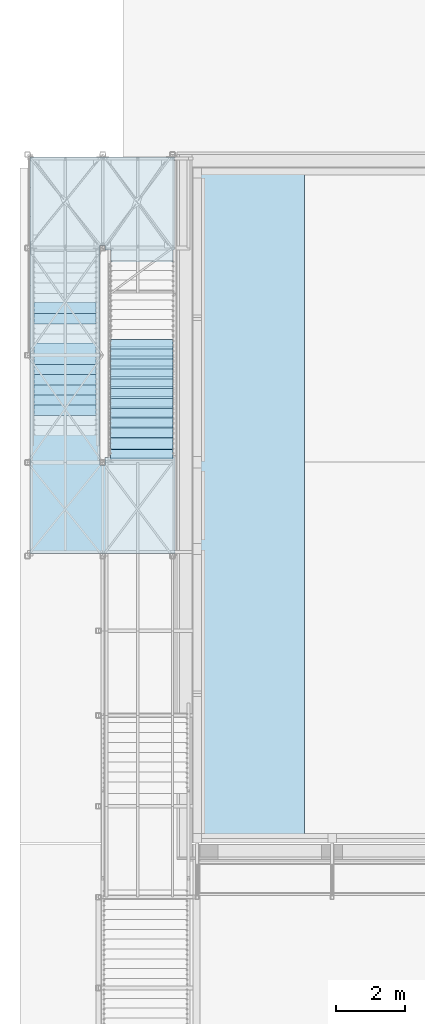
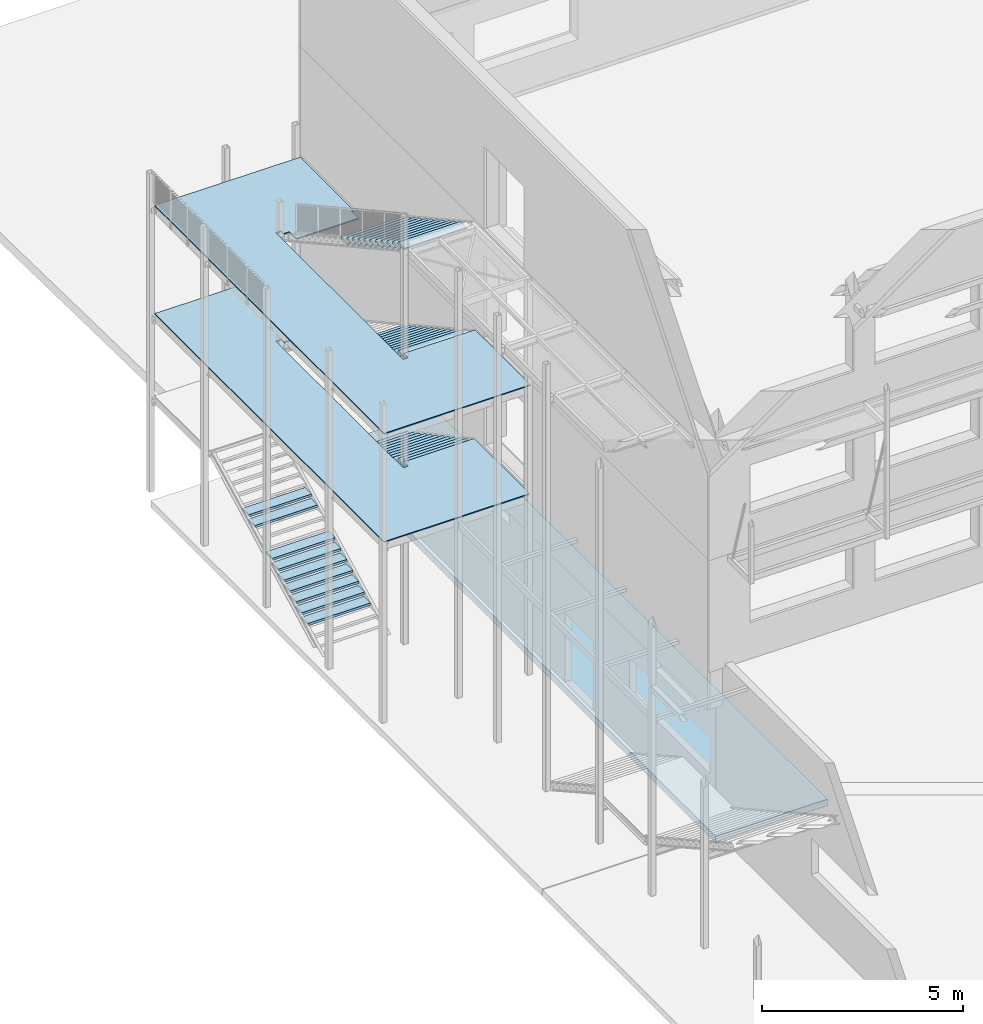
# One storey, part 58 of 78: 44 plates, 1 slab, 45 elements without a shape of their own.
"""IFC2X3 building model written with IfcOpenShell, lengths in millimetres."""

from ifc_helpers import new_model, si_unit, frame, origin_with_axes, place, context, subcontext, project, spatial, polyline, outline, extrude, material, type_object, element, aggregate, save


model = new_model("IFC2X3")

# Units and contexts
model_context = context("Model", 3, precision=1e-05, world=origin_with_axes())
body_context = subcontext(model_context, "Body", "Model", "MODEL_VIEW")
ifc_project = project(units=[si_unit("LENGTHUNIT", "METRE", prefix="MILLI"), si_unit("AREAUNIT", "SQUARE_METRE"), si_unit("VOLUMEUNIT", "CUBIC_METRE"), si_unit("MASSUNIT", "GRAM", prefix="KILO"), si_unit("TIMEUNIT", "SECOND"), si_unit("PLANEANGLEUNIT", "RADIAN"), si_unit("SOLIDANGLEUNIT", "STERADIAN"), si_unit("THERMODYNAMICTEMPERATUREUNIT", "DEGREE_CELSIUS"), si_unit("LUMINOUSINTENSITYUNIT", "LUMEN")], contexts=[model_context])

# Site, building, storey
site_placement = place(None, origin_with_axes())
site = spatial("IfcSite", under=ifc_project, at=site_placement, Name="Site", CompositionType="ELEMENT")
building_placement = place(site_placement, origin_with_axes())
building = spatial("IfcBuilding", under=site, at=building_placement, Name="Undefined", CompositionType="ELEMENT")
storey_placement = place(building_placement, origin_with_axes())
storey = spatial("IfcBuildingStorey", under=building, at=storey_placement, Name="Undefined", CompositionType="ELEMENT", Elevation=0.0)

# Assembly, plate
assembly_1_placement = place(storey_placement, origin_with_axes())
assembly_1 = element("IfcElementAssembly", 1, at=assembly_1_placement, inside=storey, AssemblyPlace="NOTDEFINED", PredefinedType="RIGID_FRAME")
ifc_material_1 = material(Name="STEEL/S235JR")
plate_type_1 = type_object("IfcPlateType", Name="PL30*4190", PredefinedType="NOTDEFINED")
plate_1_placement = place(assembly_1_placement, frame((-35311.3999999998, 12733.0, 153385.04), z_axis=(0.0, 0.0, 1.0), x_axis=(0.0, -1.0, 0.0)))
plate_1 = element("IfcPlate", 2, at=plate_1_placement, type_object=plate_type_1, material=ifc_material_1, Name="CAILLEBOTIS", ObjectType="PL30*4190", context=body_context, shape_type="SweptSolid", body=[
    extrude(outline(polyline([(0.0, 0.0), (11450.0, 5.0931703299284e-11), (11450.0, 4189.96701851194), (8685.0059422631, 4189.96701851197), (8685.0035582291, 2169.96571950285), (8900.00000000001, 2169.96999999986), (8900.0, 2019.97420066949), (2550.0, 2019.97420066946), (2550.0, 2169.96999999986), (2685.00000000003, 2169.96999999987), (2685.00000000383, 2333.53825699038), (3035.00000011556, 2333.53825699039), (3034.99999999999, 4123.53825699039), (2684.99999999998, 4123.53825699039), (2684.99999999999, 4164.91625219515), (3.63797880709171e-12, 4164.97000010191), (0.0, 0.0)])), frame((0.0, 0.0, -15.0), z_axis=(0.0, 0.0, 1.0), x_axis=(1.0, 0.0, 0.0)), (0.0, 0.0, 1.0), 30.0),
])
aggregate(assembly_1, [plate_1])

assembly_2_placement = place(storey_placement, origin_with_axes())
assembly_2 = element("IfcElementAssembly", 3, at=assembly_2_placement, inside=storey, Name="MARCHE", AssemblyPlace="NOTDEFINED", PredefinedType="RIGID_FRAME")
plate_type_2 = type_object("IfcPlateType", Name="PL1800*70", PredefinedType="NOTDEFINED")
plate_2_placement = place(assembly_2_placement, frame((-32082.8599999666, 4287.99999995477, 156385.040000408), z_axis=(-1.0, 0.0, 0.0), x_axis=(0.0, 1.0, 0.0)))
plate_2 = element("IfcPlate", 4, at=plate_2_placement, type_object=plate_type_2, material=ifc_material_1, Name="MARCHE", ObjectType="PL1800*70", context=body_context, shape_type="SweptSolid", body=[
    extrude(outline(polyline([(0.0, 0.0), (330.0, 0.0), (330.0, 70.0), (40.0, 70.0), (0.0, 40.0), (0.0, 0.0)])), frame((0.0, 0.0, -900.0), z_axis=(0.0, 0.0, 1.0), x_axis=(1.0, 0.0, 0.0)), (0.0, 0.0, 1.0), 1800.0),
])
aggregate(assembly_2, [plate_2])

assembly_3_placement = place(storey_placement, origin_with_axes())
assembly_3 = element("IfcElementAssembly", 5, at=assembly_3_placement, inside=storey, Name="MARCHE", AssemblyPlace="NOTDEFINED", PredefinedType="RIGID_FRAME")
plate_3_placement = place(assembly_3_placement, frame((-32082.8599999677, 4572.99999995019, 156227.5400004), z_axis=(-1.0, 0.0, 0.0), x_axis=(0.0, 1.0, 0.0)))
plate_3 = element("IfcPlate", 6, at=plate_3_placement, type_object=plate_type_2, material=ifc_material_1, Name="MARCHE", ObjectType="PL1800*70", context=body_context, shape_type="SweptSolid", body=[
    extrude(outline(polyline([(0.0, 0.0), (330.0, 0.0), (330.0, 70.0), (40.0, 70.0), (0.0, 40.0), (0.0, 0.0)])), frame((0.0, 0.0, -900.0), z_axis=(0.0, 0.0, 1.0), x_axis=(1.0, 0.0, 0.0)), (0.0, 0.0, 1.0), 1800.0),
])
aggregate(assembly_3, [plate_3])

assembly_4_placement = place(storey_placement, origin_with_axes())
assembly_4 = element("IfcElementAssembly", 7, at=assembly_4_placement, inside=storey, Name="MARCHE", AssemblyPlace="NOTDEFINED", PredefinedType="RIGID_FRAME")
plate_4_placement = place(assembly_4_placement, frame((-32082.8599999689, 4857.9999999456, 156070.040000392), z_axis=(-1.0, 0.0, 0.0), x_axis=(0.0, 1.0, 0.0)))
plate_4 = element("IfcPlate", 8, at=plate_4_placement, type_object=plate_type_2, material=ifc_material_1, Name="MARCHE", ObjectType="PL1800*70", context=body_context, shape_type="SweptSolid", body=[
    extrude(outline(polyline([(0.0, 0.0), (330.0, 0.0), (330.0, 70.0), (40.0, 70.0), (0.0, 40.0), (0.0, 0.0)])), frame((0.0, 0.0, -900.0), z_axis=(0.0, 0.0, 1.0), x_axis=(1.0, 0.0, 0.0)), (0.0, 0.0, 1.0), 1800.0),
])
aggregate(assembly_4, [plate_4])

assembly_5_placement = place(storey_placement, origin_with_axes())
assembly_5 = element("IfcElementAssembly", 9, at=assembly_5_placement, inside=storey, Name="MARCHE", AssemblyPlace="NOTDEFINED", PredefinedType="RIGID_FRAME")
plate_5_placement = place(assembly_5_placement, frame((-32082.85999997, 5142.99999994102, 155912.540000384), z_axis=(-1.0, 0.0, 0.0), x_axis=(0.0, 1.0, 0.0)))
plate_5 = element("IfcPlate", 10, at=plate_5_placement, type_object=plate_type_2, material=ifc_material_1, Name="MARCHE", ObjectType="PL1800*70", context=body_context, shape_type="SweptSolid", body=[
    extrude(outline(polyline([(0.0, 0.0), (330.0, 0.0), (330.0, 70.0), (40.0, 70.0), (0.0, 40.0), (0.0, 0.0)])), frame((0.0, 0.0, -900.0), z_axis=(0.0, 0.0, 1.0), x_axis=(1.0, 0.0, 0.0)), (0.0, 0.0, 1.0), 1800.0),
])
aggregate(assembly_5, [plate_5])

assembly_6_placement = place(storey_placement, origin_with_axes())
assembly_6 = element("IfcElementAssembly", 11, at=assembly_6_placement, inside=storey, Name="MARCHE", AssemblyPlace="NOTDEFINED", PredefinedType="RIGID_FRAME")
plate_6_placement = place(assembly_6_placement, frame((-32082.8599999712, 5427.99999993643, 155755.040000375), z_axis=(-1.0, 0.0, 0.0), x_axis=(0.0, 1.0, 0.0)))
plate_6 = element("IfcPlate", 12, at=plate_6_placement, type_object=plate_type_2, material=ifc_material_1, Name="MARCHE", ObjectType="PL1800*70", context=body_context, shape_type="SweptSolid", body=[
    extrude(outline(polyline([(0.0, 0.0), (330.0, 0.0), (330.0, 70.0), (40.0, 70.0), (0.0, 40.0), (0.0, 0.0)])), frame((0.0, 0.0, -900.0), z_axis=(0.0, 0.0, 1.0), x_axis=(1.0, 0.0, 0.0)), (0.0, 0.0, 1.0), 1800.0),
])
aggregate(assembly_6, [plate_6])

assembly_7_placement = place(storey_placement, origin_with_axes())
assembly_7 = element("IfcElementAssembly", 13, at=assembly_7_placement, inside=storey, Name="MARCHE", AssemblyPlace="NOTDEFINED", PredefinedType="RIGID_FRAME")
plate_7_placement = place(assembly_7_placement, frame((-32082.8599999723, 5712.99999993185, 155597.540000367), z_axis=(-1.0, 0.0, 0.0), x_axis=(0.0, 1.0, 0.0)))
plate_7 = element("IfcPlate", 14, at=plate_7_placement, type_object=plate_type_2, material=ifc_material_1, Name="MARCHE", ObjectType="PL1800*70", context=body_context, shape_type="SweptSolid", body=[
    extrude(outline(polyline([(0.0, 0.0), (330.0, 0.0), (330.0, 70.0), (40.0, 70.0), (0.0, 40.0), (0.0, 0.0)])), frame((0.0, 0.0, -900.0), z_axis=(0.0, 0.0, 1.0), x_axis=(1.0, 0.0, 0.0)), (0.0, 0.0, 1.0), 1800.0),
])
aggregate(assembly_7, [plate_7])

assembly_8_placement = place(storey_placement, origin_with_axes())
assembly_8 = element("IfcElementAssembly", 15, at=assembly_8_placement, inside=storey, Name="MARCHE", AssemblyPlace="NOTDEFINED", PredefinedType="RIGID_FRAME")
plate_8_placement = place(assembly_8_placement, frame((-32082.8599999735, 5997.99999992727, 155440.040000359), z_axis=(-1.0, 0.0, 0.0), x_axis=(0.0, 1.0, 0.0)))
plate_8 = element("IfcPlate", 16, at=plate_8_placement, type_object=plate_type_2, material=ifc_material_1, Name="MARCHE", ObjectType="PL1800*70", context=body_context, shape_type="SweptSolid", body=[
    extrude(outline(polyline([(0.0, 0.0), (330.0, 0.0), (330.0, 70.0), (40.0, 70.0), (0.0, 40.0), (0.0, 0.0)])), frame((0.0, 0.0, -900.0), z_axis=(0.0, 0.0, 1.0), x_axis=(1.0, 0.0, 0.0)), (0.0, 0.0, 1.0), 1800.0),
])
aggregate(assembly_8, [plate_8])

assembly_9_placement = place(storey_placement, origin_with_axes())
assembly_9 = element("IfcElementAssembly", 17, at=assembly_9_placement, inside=storey, Name="MARCHE", AssemblyPlace="NOTDEFINED", PredefinedType="RIGID_FRAME")
plate_9_placement = place(assembly_9_placement, frame((-32082.8599999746, 6282.99999992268, 155282.54000035), z_axis=(-1.0, 0.0, 0.0), x_axis=(0.0, 1.0, 0.0)))
plate_9 = element("IfcPlate", 18, at=plate_9_placement, type_object=plate_type_2, material=ifc_material_1, Name="MARCHE", ObjectType="PL1800*70", context=body_context, shape_type="SweptSolid", body=[
    extrude(outline(polyline([(0.0, 0.0), (330.0, 0.0), (330.0, 70.0), (40.0, 70.0), (0.0, 40.0), (0.0, 0.0)])), frame((0.0, 0.0, -900.0), z_axis=(0.0, 0.0, 1.0), x_axis=(1.0, 0.0, 0.0)), (0.0, 0.0, 1.0), 1800.0),
])
aggregate(assembly_9, [plate_9])

assembly_10_placement = place(storey_placement, origin_with_axes())
assembly_10 = element("IfcElementAssembly", 19, at=assembly_10_placement, inside=storey, Name="MARCHE", AssemblyPlace="NOTDEFINED", PredefinedType="RIGID_FRAME")
plate_10_placement = place(assembly_10_placement, frame((-32082.8599999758, 6567.9999999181, 155125.040000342), z_axis=(-1.0, 0.0, 0.0), x_axis=(0.0, 1.0, 0.0)))
plate_10 = element("IfcPlate", 20, at=plate_10_placement, type_object=plate_type_2, material=ifc_material_1, Name="MARCHE", ObjectType="PL1800*70", context=body_context, shape_type="SweptSolid", body=[
    extrude(outline(polyline([(0.0, 0.0), (330.0, 0.0), (330.0, 70.0), (40.0, 70.0), (0.0, 40.0), (0.0, 0.0)])), frame((0.0, 0.0, -900.0), z_axis=(0.0, 0.0, 1.0), x_axis=(1.0, 0.0, 0.0)), (0.0, 0.0, 1.0), 1800.0),
])
aggregate(assembly_10, [plate_10])

assembly_11_placement = place(storey_placement, origin_with_axes())
assembly_11 = element("IfcElementAssembly", 21, at=assembly_11_placement, inside=storey, Name="MARCHE", AssemblyPlace="NOTDEFINED", PredefinedType="RIGID_FRAME")
plate_11_placement = place(assembly_11_placement, frame((-32082.8599999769, 6852.99999991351, 154967.540000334), z_axis=(-1.0, 0.0, 0.0), x_axis=(0.0, 1.0, 0.0)))
plate_11 = element("IfcPlate", 22, at=plate_11_placement, type_object=plate_type_2, material=ifc_material_1, Name="MARCHE", ObjectType="PL1800*70", context=body_context, shape_type="SweptSolid", body=[
    extrude(outline(polyline([(0.0, 0.0), (330.0, 0.0), (330.0, 70.0), (40.0, 70.0), (0.0, 40.0), (0.0, 0.0)])), frame((0.0, 0.0, -900.0), z_axis=(0.0, 0.0, 1.0), x_axis=(1.0, 0.0, 0.0)), (0.0, 0.0, 1.0), 1800.0),
])
aggregate(assembly_11, [plate_11])

assembly_12_placement = place(storey_placement, origin_with_axes())
assembly_12 = element("IfcElementAssembly", 23, at=assembly_12_placement, inside=storey, Name="MARCHE", AssemblyPlace="NOTDEFINED", PredefinedType="RIGID_FRAME")
plate_12_placement = place(assembly_12_placement, frame((-32082.8599999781, 7137.99999990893, 154810.040000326), z_axis=(-1.0, 0.0, 0.0), x_axis=(0.0, 1.0, 0.0)))
plate_12 = element("IfcPlate", 24, at=plate_12_placement, type_object=plate_type_2, material=ifc_material_1, Name="MARCHE", ObjectType="PL1800*70", context=body_context, shape_type="SweptSolid", body=[
    extrude(outline(polyline([(0.0, 0.0), (330.0, 0.0), (330.0, 70.0), (40.0, 70.0), (0.0, 40.0), (0.0, 0.0)])), frame((0.0, 0.0, -900.0), z_axis=(0.0, 0.0, 1.0), x_axis=(1.0, 0.0, 0.0)), (0.0, 0.0, 1.0), 1800.0),
])
aggregate(assembly_12, [plate_12])

assembly_13_placement = place(storey_placement, origin_with_axes())
assembly_13 = element("IfcElementAssembly", 25, at=assembly_13_placement, inside=storey, Name="MARCHE", AssemblyPlace="NOTDEFINED", PredefinedType="RIGID_FRAME")
plate_13_placement = place(assembly_13_placement, frame((-32082.8599999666, 4287.99999995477, 159685.040000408), z_axis=(-1.0, 0.0, 0.0), x_axis=(0.0, 1.0, 0.0)))
plate_13 = element("IfcPlate", 26, at=plate_13_placement, type_object=plate_type_2, material=ifc_material_1, Name="MARCHE", ObjectType="PL1800*70", context=body_context, shape_type="SweptSolid", body=[
    extrude(outline(polyline([(0.0, 0.0), (330.0, 0.0), (330.0, 70.0), (40.0, 70.0), (0.0, 40.0), (0.0, 0.0)])), frame((0.0, 0.0, -900.0), z_axis=(0.0, 0.0, 1.0), x_axis=(1.0, 0.0, 0.0)), (0.0, 0.0, 1.0), 1800.0),
])
aggregate(assembly_13, [plate_13])

assembly_14_placement = place(storey_placement, origin_with_axes())
assembly_14 = element("IfcElementAssembly", 27, at=assembly_14_placement, inside=storey, Name="MARCHE", AssemblyPlace="NOTDEFINED", PredefinedType="RIGID_FRAME")
plate_14_placement = place(assembly_14_placement, frame((-32082.8599999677, 4572.99999995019, 159527.5400004), z_axis=(-1.0, 0.0, 0.0), x_axis=(0.0, 1.0, 0.0)))
plate_14 = element("IfcPlate", 28, at=plate_14_placement, type_object=plate_type_2, material=ifc_material_1, Name="MARCHE", ObjectType="PL1800*70", context=body_context, shape_type="SweptSolid", body=[
    extrude(outline(polyline([(0.0, 0.0), (330.0, 0.0), (330.0, 70.0), (40.0, 70.0), (0.0, 40.0), (0.0, 0.0)])), frame((0.0, 0.0, -900.0), z_axis=(0.0, 0.0, 1.0), x_axis=(1.0, 0.0, 0.0)), (0.0, 0.0, 1.0), 1800.0),
])
aggregate(assembly_14, [plate_14])

assembly_15_placement = place(storey_placement, origin_with_axes())
assembly_15 = element("IfcElementAssembly", 29, at=assembly_15_placement, inside=storey, Name="MARCHE", AssemblyPlace="NOTDEFINED", PredefinedType="RIGID_FRAME")
plate_15_placement = place(assembly_15_placement, frame((-32082.8599999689, 4857.9999999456, 159370.040000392), z_axis=(-1.0, 0.0, 0.0), x_axis=(0.0, 1.0, 0.0)))
plate_15 = element("IfcPlate", 30, at=plate_15_placement, type_object=plate_type_2, material=ifc_material_1, Name="MARCHE", ObjectType="PL1800*70", context=body_context, shape_type="SweptSolid", body=[
    extrude(outline(polyline([(0.0, 0.0), (330.0, 0.0), (330.0, 70.0), (40.0, 70.0), (0.0, 40.0), (0.0, 0.0)])), frame((0.0, 0.0, -900.0), z_axis=(0.0, 0.0, 1.0), x_axis=(1.0, 0.0, 0.0)), (0.0, 0.0, 1.0), 1800.0),
])
aggregate(assembly_15, [plate_15])

assembly_16_placement = place(storey_placement, origin_with_axes())
assembly_16 = element("IfcElementAssembly", 31, at=assembly_16_placement, inside=storey, Name="MARCHE", AssemblyPlace="NOTDEFINED", PredefinedType="RIGID_FRAME")
plate_16_placement = place(assembly_16_placement, frame((-32082.85999997, 5142.99999994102, 159212.540000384), z_axis=(-1.0, 0.0, 0.0), x_axis=(0.0, 1.0, 0.0)))
plate_16 = element("IfcPlate", 32, at=plate_16_placement, type_object=plate_type_2, material=ifc_material_1, Name="MARCHE", ObjectType="PL1800*70", context=body_context, shape_type="SweptSolid", body=[
    extrude(outline(polyline([(0.0, 0.0), (330.0, 0.0), (330.0, 70.0), (40.0, 70.0), (0.0, 40.0), (0.0, 0.0)])), frame((0.0, 0.0, -900.0), z_axis=(0.0, 0.0, 1.0), x_axis=(1.0, 0.0, 0.0)), (0.0, 0.0, 1.0), 1800.0),
])
aggregate(assembly_16, [plate_16])

assembly_17_placement = place(storey_placement, origin_with_axes())
assembly_17 = element("IfcElementAssembly", 33, at=assembly_17_placement, inside=storey, Name="MARCHE", AssemblyPlace="NOTDEFINED", PredefinedType="RIGID_FRAME")
plate_17_placement = place(assembly_17_placement, frame((-32082.8599999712, 5427.99999993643, 159055.040000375), z_axis=(-1.0, 0.0, 0.0), x_axis=(0.0, 1.0, 0.0)))
plate_17 = element("IfcPlate", 34, at=plate_17_placement, type_object=plate_type_2, material=ifc_material_1, Name="MARCHE", ObjectType="PL1800*70", context=body_context, shape_type="SweptSolid", body=[
    extrude(outline(polyline([(0.0, 0.0), (330.0, 0.0), (330.0, 70.0), (40.0, 70.0), (0.0, 40.0), (0.0, 0.0)])), frame((0.0, 0.0, -900.0), z_axis=(0.0, 0.0, 1.0), x_axis=(1.0, 0.0, 0.0)), (0.0, 0.0, 1.0), 1800.0),
])
aggregate(assembly_17, [plate_17])

assembly_18_placement = place(storey_placement, origin_with_axes())
assembly_18 = element("IfcElementAssembly", 35, at=assembly_18_placement, inside=storey, Name="MARCHE", AssemblyPlace="NOTDEFINED", PredefinedType="RIGID_FRAME")
plate_18_placement = place(assembly_18_placement, frame((-32082.8599999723, 5712.99999993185, 158897.540000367), z_axis=(-1.0, 0.0, 0.0), x_axis=(0.0, 1.0, 0.0)))
plate_18 = element("IfcPlate", 36, at=plate_18_placement, type_object=plate_type_2, material=ifc_material_1, Name="MARCHE", ObjectType="PL1800*70", context=body_context, shape_type="SweptSolid", body=[
    extrude(outline(polyline([(0.0, 0.0), (330.0, 0.0), (330.0, 70.0), (40.0, 70.0), (0.0, 40.0), (0.0, 0.0)])), frame((0.0, 0.0, -900.0), z_axis=(0.0, 0.0, 1.0), x_axis=(1.0, 0.0, 0.0)), (0.0, 0.0, 1.0), 1800.0),
])
aggregate(assembly_18, [plate_18])

assembly_19_placement = place(storey_placement, origin_with_axes())
assembly_19 = element("IfcElementAssembly", 37, at=assembly_19_placement, inside=storey, Name="MARCHE", AssemblyPlace="NOTDEFINED", PredefinedType="RIGID_FRAME")
plate_19_placement = place(assembly_19_placement, frame((-32082.8599999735, 5997.99999992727, 158740.040000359), z_axis=(-1.0, 0.0, 0.0), x_axis=(0.0, 1.0, 0.0)))
plate_19 = element("IfcPlate", 38, at=plate_19_placement, type_object=plate_type_2, material=ifc_material_1, Name="MARCHE", ObjectType="PL1800*70", context=body_context, shape_type="SweptSolid", body=[
    extrude(outline(polyline([(0.0, 0.0), (330.0, 0.0), (330.0, 70.0), (40.0, 70.0), (0.0, 40.0), (0.0, 0.0)])), frame((0.0, 0.0, -900.0), z_axis=(0.0, 0.0, 1.0), x_axis=(1.0, 0.0, 0.0)), (0.0, 0.0, 1.0), 1800.0),
])
aggregate(assembly_19, [plate_19])

assembly_20_placement = place(storey_placement, origin_with_axes())
assembly_20 = element("IfcElementAssembly", 39, at=assembly_20_placement, inside=storey, Name="MARCHE", AssemblyPlace="NOTDEFINED", PredefinedType="RIGID_FRAME")
plate_20_placement = place(assembly_20_placement, frame((-32082.8599999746, 6282.99999992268, 158582.54000035), z_axis=(-1.0, 0.0, 0.0), x_axis=(0.0, 1.0, 0.0)))
plate_20 = element("IfcPlate", 40, at=plate_20_placement, type_object=plate_type_2, material=ifc_material_1, Name="MARCHE", ObjectType="PL1800*70", context=body_context, shape_type="SweptSolid", body=[
    extrude(outline(polyline([(0.0, 0.0), (330.0, 0.0), (330.0, 70.0), (40.0, 70.0), (0.0, 40.0), (0.0, 0.0)])), frame((0.0, 0.0, -900.0), z_axis=(0.0, 0.0, 1.0), x_axis=(1.0, 0.0, 0.0)), (0.0, 0.0, 1.0), 1800.0),
])
aggregate(assembly_20, [plate_20])

assembly_21_placement = place(storey_placement, origin_with_axes())
assembly_21 = element("IfcElementAssembly", 41, at=assembly_21_placement, inside=storey, Name="MARCHE", AssemblyPlace="NOTDEFINED", PredefinedType="RIGID_FRAME")
plate_21_placement = place(assembly_21_placement, frame((-32082.8599999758, 6567.9999999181, 158425.040000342), z_axis=(-1.0, 0.0, 0.0), x_axis=(0.0, 1.0, 0.0)))
plate_21 = element("IfcPlate", 42, at=plate_21_placement, type_object=plate_type_2, material=ifc_material_1, Name="MARCHE", ObjectType="PL1800*70", context=body_context, shape_type="SweptSolid", body=[
    extrude(outline(polyline([(0.0, 0.0), (330.0, 0.0), (330.0, 70.0), (40.0, 70.0), (0.0, 40.0), (0.0, 0.0)])), frame((0.0, 0.0, -900.0), z_axis=(0.0, 0.0, 1.0), x_axis=(1.0, 0.0, 0.0)), (0.0, 0.0, 1.0), 1800.0),
])
aggregate(assembly_21, [plate_21])

assembly_22_placement = place(storey_placement, origin_with_axes())
assembly_22 = element("IfcElementAssembly", 43, at=assembly_22_placement, inside=storey, Name="MARCHE", AssemblyPlace="NOTDEFINED", PredefinedType="RIGID_FRAME")
plate_22_placement = place(assembly_22_placement, frame((-32082.8599999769, 6852.99999991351, 158267.540000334), z_axis=(-1.0, 0.0, 0.0), x_axis=(0.0, 1.0, 0.0)))
plate_22 = element("IfcPlate", 44, at=plate_22_placement, type_object=plate_type_2, material=ifc_material_1, Name="MARCHE", ObjectType="PL1800*70", context=body_context, shape_type="SweptSolid", body=[
    extrude(outline(polyline([(0.0, 0.0), (330.0, 0.0), (330.0, 70.0), (40.0, 70.0), (0.0, 40.0), (0.0, 0.0)])), frame((0.0, 0.0, -900.0), z_axis=(0.0, 0.0, 1.0), x_axis=(1.0, 0.0, 0.0)), (0.0, 0.0, 1.0), 1800.0),
])
aggregate(assembly_22, [plate_22])

assembly_23_placement = place(storey_placement, origin_with_axes())
assembly_23 = element("IfcElementAssembly", 45, at=assembly_23_placement, inside=storey, Name="MARCHE", AssemblyPlace="NOTDEFINED", PredefinedType="RIGID_FRAME")
plate_23_placement = place(assembly_23_placement, frame((-32082.8599999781, 7137.99999990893, 158110.040000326), z_axis=(-1.0, 0.0, 0.0), x_axis=(0.0, 1.0, 0.0)))
plate_23 = element("IfcPlate", 46, at=plate_23_placement, type_object=plate_type_2, material=ifc_material_1, Name="MARCHE", ObjectType="PL1800*70", context=body_context, shape_type="SweptSolid", body=[
    extrude(outline(polyline([(0.0, 0.0), (330.0, 0.0), (330.0, 70.0), (40.0, 70.0), (0.0, 40.0), (0.0, 0.0)])), frame((0.0, 0.0, -900.0), z_axis=(0.0, 0.0, 1.0), x_axis=(1.0, 0.0, 0.0)), (0.0, 0.0, 1.0), 1800.0),
])
aggregate(assembly_23, [plate_23])

assembly_24_placement = place(storey_placement, origin_with_axes())
assembly_24 = element("IfcElementAssembly", 47, at=assembly_24_placement, inside=storey, Name="MARCHE", AssemblyPlace="NOTDEFINED", PredefinedType="RIGID_FRAME")
plate_24_placement = place(assembly_24_placement, frame((-34301.4300000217, 8539.00000000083, 149982.040000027), z_axis=(1.0, 0.0, 0.0), x_axis=(0.0, -1.0, 0.0)))
plate_24 = element("IfcPlate", 48, at=plate_24_placement, type_object=plate_type_2, material=ifc_material_1, Name="MARCHE", ObjectType="PL1800*70", context=body_context, shape_type="SweptSolid", body=[
    extrude(outline(polyline([(0.0, 0.0), (330.0, 0.0), (330.0, 70.0), (40.0, 70.0), (0.0, 40.0), (0.0, 0.0)])), frame((0.0, 0.0, -900.0), z_axis=(0.0, 0.0, 1.0), x_axis=(1.0, 0.0, 0.0)), (0.0, 0.0, 1.0), 1800.0),
])
aggregate(assembly_24, [plate_24])

assembly_25_placement = place(storey_placement, origin_with_axes())
assembly_25 = element("IfcElementAssembly", 49, at=assembly_25_placement, inside=storey, Name="MARCHE", AssemblyPlace="NOTDEFINED", PredefinedType="RIGID_FRAME")
plate_25_placement = place(assembly_25_placement, frame((-34301.4300000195, 8245.00000000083, 149829.040000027), z_axis=(1.0, 0.0, 0.0), x_axis=(0.0, -1.0, 0.0)))
plate_25 = element("IfcPlate", 50, at=plate_25_placement, type_object=plate_type_2, material=ifc_material_1, Name="MARCHE", ObjectType="PL1800*70", context=body_context, shape_type="SweptSolid", body=[
    extrude(outline(polyline([(0.0, 0.0), (330.0, 0.0), (330.0, 70.0), (40.0, 70.0), (0.0, 40.0), (0.0, 0.0)])), frame((0.0, 0.0, -900.0), z_axis=(0.0, 0.0, 1.0), x_axis=(1.0, 0.0, 0.0)), (0.0, 0.0, 1.0), 1800.0),
])
aggregate(assembly_25, [plate_25])

assembly_26_placement = place(storey_placement, origin_with_axes())
assembly_26 = element("IfcElementAssembly", 51, at=assembly_26_placement, inside=storey, Name="MARCHE", AssemblyPlace="NOTDEFINED", PredefinedType="RIGID_FRAME")
plate_26_placement = place(assembly_26_placement, frame((-34301.4300000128, 7363.00000000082, 149370.040000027), z_axis=(1.0, 0.0, 0.0), x_axis=(0.0, -1.0, 0.0)))
plate_26 = element("IfcPlate", 52, at=plate_26_placement, type_object=plate_type_2, material=ifc_material_1, Name="MARCHE", ObjectType="PL1800*70", context=body_context, shape_type="SweptSolid", body=[
    extrude(outline(polyline([(0.0, 0.0), (330.0, 0.0), (330.0, 70.0), (40.0, 70.0), (0.0, 40.0), (0.0, 0.0)])), frame((0.0, 0.0, -900.0), z_axis=(0.0, 0.0, 1.0), x_axis=(1.0, 0.0, 0.0)), (0.0, 0.0, 1.0), 1800.0),
])
aggregate(assembly_26, [plate_26])

assembly_27_placement = place(storey_placement, origin_with_axes())
assembly_27 = element("IfcElementAssembly", 53, at=assembly_27_placement, inside=storey, Name="MARCHE", AssemblyPlace="NOTDEFINED", PredefinedType="RIGID_FRAME")
plate_27_placement = place(assembly_27_placement, frame((-34301.4300000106, 7069.00000000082, 149217.040000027), z_axis=(1.0, 0.0, 0.0), x_axis=(0.0, -1.0, 0.0)))
plate_27 = element("IfcPlate", 54, at=plate_27_placement, type_object=plate_type_2, material=ifc_material_1, Name="MARCHE", ObjectType="PL1800*70", context=body_context, shape_type="SweptSolid", body=[
    extrude(outline(polyline([(0.0, 0.0), (330.0, 0.0), (330.0, 70.0), (40.0, 70.0), (0.0, 40.0), (0.0, 0.0)])), frame((0.0, 0.0, -900.0), z_axis=(0.0, 0.0, 1.0), x_axis=(1.0, 0.0, 0.0)), (0.0, 0.0, 1.0), 1800.0),
])
aggregate(assembly_27, [plate_27])

assembly_28_placement = place(storey_placement, origin_with_axes())
assembly_28 = element("IfcElementAssembly", 55, at=assembly_28_placement, inside=storey, Name="MARCHE", AssemblyPlace="NOTDEFINED", PredefinedType="RIGID_FRAME")
plate_28_placement = place(assembly_28_placement, frame((-34301.4300000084, 6775.00000000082, 149064.040000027), z_axis=(1.0, 0.0, 0.0), x_axis=(0.0, -1.0, 0.0)))
plate_28 = element("IfcPlate", 56, at=plate_28_placement, type_object=plate_type_2, material=ifc_material_1, Name="MARCHE", ObjectType="PL1800*70", context=body_context, shape_type="SweptSolid", body=[
    extrude(outline(polyline([(0.0, 0.0), (330.0, 0.0), (330.0, 70.0), (40.0, 70.0), (0.0, 40.0), (0.0, 0.0)])), frame((0.0, 0.0, -900.0), z_axis=(0.0, 0.0, 1.0), x_axis=(1.0, 0.0, 0.0)), (0.0, 0.0, 1.0), 1800.0),
])
aggregate(assembly_28, [plate_28])

assembly_29_placement = place(storey_placement, origin_with_axes())
assembly_29 = element("IfcElementAssembly", 57, at=assembly_29_placement, inside=storey, Name="MARCHE", AssemblyPlace="NOTDEFINED", PredefinedType="RIGID_FRAME")
plate_29_placement = place(assembly_29_placement, frame((-34301.4300000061, 6481.00000000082, 148911.040000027), z_axis=(1.0, 0.0, 0.0), x_axis=(0.0, -1.0, 0.0)))
plate_29 = element("IfcPlate", 58, at=plate_29_placement, type_object=plate_type_2, material=ifc_material_1, Name="MARCHE", ObjectType="PL1800*70", context=body_context, shape_type="SweptSolid", body=[
    extrude(outline(polyline([(0.0, 0.0), (330.0, 0.0), (330.0, 70.0), (40.0, 70.0), (0.0, 40.0), (0.0, 0.0)])), frame((0.0, 0.0, -900.0), z_axis=(0.0, 0.0, 1.0), x_axis=(1.0, 0.0, 0.0)), (0.0, 0.0, 1.0), 1800.0),
])
aggregate(assembly_29, [plate_29])

assembly_30_placement = place(storey_placement, origin_with_axes())
assembly_30 = element("IfcElementAssembly", 59, at=assembly_30_placement, inside=storey, Name="MARCHE", AssemblyPlace="NOTDEFINED", PredefinedType="RIGID_FRAME")
plate_30_placement = place(assembly_30_placement, frame((-34301.4300000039, 6187.00000000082, 148758.040000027), z_axis=(1.0, 0.0, 0.0), x_axis=(0.0, -1.0, 0.0)))
plate_30 = element("IfcPlate", 60, at=plate_30_placement, type_object=plate_type_2, material=ifc_material_1, Name="MARCHE", ObjectType="PL1800*70", context=body_context, shape_type="SweptSolid", body=[
    extrude(outline(polyline([(0.0, 0.0), (330.0, 0.0), (330.0, 70.0), (40.0, 70.0), (0.0, 40.0), (0.0, 0.0)])), frame((0.0, 0.0, -900.0), z_axis=(0.0, 0.0, 1.0), x_axis=(1.0, 0.0, 0.0)), (0.0, 0.0, 1.0), 1800.0),
])
aggregate(assembly_30, [plate_30])

assembly_31_placement = place(storey_placement, origin_with_axes())
assembly_31 = element("IfcElementAssembly", 61, at=assembly_31_placement, inside=storey, Name="MARCHE", AssemblyPlace="NOTDEFINED", PredefinedType="RIGID_FRAME")
plate_31_placement = place(assembly_31_placement, frame((-34301.4300000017, 5893.00000000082, 148605.040000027), z_axis=(1.0, 0.0, 0.0), x_axis=(0.0, -1.0, 0.0)))
plate_31 = element("IfcPlate", 62, at=plate_31_placement, type_object=plate_type_2, material=ifc_material_1, Name="MARCHE", ObjectType="PL1800*70", context=body_context, shape_type="SweptSolid", body=[
    extrude(outline(polyline([(0.0, 0.0), (330.0, 0.0), (330.0, 70.0), (40.0, 70.0), (0.0, 40.0), (0.0, 0.0)])), frame((0.0, 0.0, -900.0), z_axis=(0.0, 0.0, 1.0), x_axis=(1.0, 0.0, 0.0)), (0.0, 0.0, 1.0), 1800.0),
])
aggregate(assembly_31, [plate_31])

assembly_32_placement = place(storey_placement, origin_with_axes())
assembly_32 = element("IfcElementAssembly", 63, at=assembly_32_placement, inside=storey, Name="MARCHE", AssemblyPlace="NOTDEFINED", PredefinedType="RIGID_FRAME")
plate_32_placement = place(assembly_32_placement, frame((-34301.4299999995, 5599.00000000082, 148452.040000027), z_axis=(1.0, 0.0, 0.0), x_axis=(0.0, -1.0, 0.0)))
plate_32 = element("IfcPlate", 64, at=plate_32_placement, type_object=plate_type_2, material=ifc_material_1, Name="MARCHE", ObjectType="PL1800*70", context=body_context, shape_type="SweptSolid", body=[
    extrude(outline(polyline([(0.0, 0.0), (330.0, 0.0), (330.0, 70.0), (40.0, 70.0), (0.0, 40.0), (0.0, 0.0)])), frame((0.0, 0.0, -900.0), z_axis=(0.0, 0.0, 1.0), x_axis=(1.0, 0.0, 0.0)), (0.0, 0.0, 1.0), 1800.0),
])
aggregate(assembly_32, [plate_32])

assembly_33_placement = place(storey_placement, origin_with_axes())
assembly_33 = element("IfcElementAssembly", 65, at=assembly_33_placement, inside=storey, Name="MARCHE", AssemblyPlace="NOTDEFINED", PredefinedType="RIGID_FRAME")
plate_33_placement = place(assembly_33_placement, frame((-32082.8599999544, 4011.99999968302, 153243.540107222), z_axis=(-1.0, 0.0, 0.0), x_axis=(0.0, 1.0, 0.0)))
plate_33 = element("IfcPlate", 66, at=plate_33_placement, type_object=plate_type_2, material=ifc_material_1, Name="MARCHE", ObjectType="PL1800*70", context=body_context, shape_type="SweptSolid", body=[
    extrude(outline(polyline([(0.0, 0.0), (330.0, 0.0), (330.0, 70.0), (40.0, 70.0), (0.0, 40.0), (0.0, 0.0)])), frame((0.0, 0.0, -900.0), z_axis=(0.0, 0.0, 1.0), x_axis=(1.0, 0.0, 0.0)), (0.0, 0.0, 1.0), 1800.0),
])
aggregate(assembly_33, [plate_33])

assembly_34_placement = place(storey_placement, origin_with_axes())
assembly_34 = element("IfcElementAssembly", 67, at=assembly_34_placement, inside=storey, Name="MARCHE", AssemblyPlace="NOTDEFINED", PredefinedType="RIGID_FRAME")
plate_34_placement = place(assembly_34_placement, frame((-32082.8599999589, 4305.99999969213, 153087.04010724), z_axis=(-1.0, 0.0, 0.0), x_axis=(0.0, 1.0, 0.0)))
plate_34 = element("IfcPlate", 68, at=plate_34_placement, type_object=plate_type_2, material=ifc_material_1, Name="MARCHE", ObjectType="PL1800*70", context=body_context, shape_type="SweptSolid", body=[
    extrude(outline(polyline([(0.0, 0.0), (330.0, 0.0), (330.0, 70.0), (40.0, 70.0), (0.0, 40.0), (0.0, 0.0)])), frame((0.0, 0.0, -900.0), z_axis=(0.0, 0.0, 1.0), x_axis=(1.0, 0.0, 0.0)), (0.0, 0.0, 1.0), 1800.0),
])
aggregate(assembly_34, [plate_34])

assembly_35_placement = place(storey_placement, origin_with_axes())
assembly_35 = element("IfcElementAssembly", 69, at=assembly_35_placement, inside=storey, Name="MARCHE", AssemblyPlace="NOTDEFINED", PredefinedType="RIGID_FRAME")
plate_35_placement = place(assembly_35_placement, frame((-32082.8599999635, 4599.99999970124, 152930.540107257), z_axis=(-1.0, 0.0, 0.0), x_axis=(0.0, 1.0, 0.0)))
plate_35 = element("IfcPlate", 70, at=plate_35_placement, type_object=plate_type_2, material=ifc_material_1, Name="MARCHE", ObjectType="PL1800*70", context=body_context, shape_type="SweptSolid", body=[
    extrude(outline(polyline([(0.0, 0.0), (330.0, 0.0), (330.0, 70.0), (40.0, 70.0), (0.0, 40.0), (0.0, 0.0)])), frame((0.0, 0.0, -900.0), z_axis=(0.0, 0.0, 1.0), x_axis=(1.0, 0.0, 0.0)), (0.0, 0.0, 1.0), 1800.0),
])
aggregate(assembly_35, [plate_35])

assembly_36_placement = place(storey_placement, origin_with_axes())
assembly_36 = element("IfcElementAssembly", 71, at=assembly_36_placement, inside=storey, Name="MARCHE", AssemblyPlace="NOTDEFINED", PredefinedType="RIGID_FRAME")
plate_36_placement = place(assembly_36_placement, frame((-32082.8599999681, 4893.99999971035, 152774.040107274), z_axis=(-1.0, 0.0, 0.0), x_axis=(0.0, 1.0, 0.0)))
plate_36 = element("IfcPlate", 72, at=plate_36_placement, type_object=plate_type_2, material=ifc_material_1, Name="MARCHE", ObjectType="PL1800*70", context=body_context, shape_type="SweptSolid", body=[
    extrude(outline(polyline([(0.0, 0.0), (330.0, 0.0), (330.0, 70.0), (40.0, 70.0), (0.0, 40.0), (0.0, 0.0)])), frame((0.0, 0.0, -900.0), z_axis=(0.0, 0.0, 1.0), x_axis=(1.0, 0.0, 0.0)), (0.0, 0.0, 1.0), 1800.0),
])
aggregate(assembly_36, [plate_36])

assembly_37_placement = place(storey_placement, origin_with_axes())
assembly_37 = element("IfcElementAssembly", 73, at=assembly_37_placement, inside=storey, Name="MARCHE", AssemblyPlace="NOTDEFINED", PredefinedType="RIGID_FRAME")
plate_37_placement = place(assembly_37_placement, frame((-32082.8599999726, 5187.99999971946, 152617.540107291), z_axis=(-1.0, 0.0, 0.0), x_axis=(0.0, 1.0, 0.0)))
plate_37 = element("IfcPlate", 74, at=plate_37_placement, type_object=plate_type_2, material=ifc_material_1, Name="MARCHE", ObjectType="PL1800*70", context=body_context, shape_type="SweptSolid", body=[
    extrude(outline(polyline([(0.0, 0.0), (330.0, 0.0), (330.0, 70.0), (40.0, 70.0), (0.0, 40.0), (0.0, 0.0)])), frame((0.0, 0.0, -900.0), z_axis=(0.0, 0.0, 1.0), x_axis=(1.0, 0.0, 0.0)), (0.0, 0.0, 1.0), 1800.0),
])
aggregate(assembly_37, [plate_37])

assembly_38_placement = place(storey_placement, origin_with_axes())
assembly_38 = element("IfcElementAssembly", 75, at=assembly_38_placement, inside=storey, Name="MARCHE", AssemblyPlace="NOTDEFINED", PredefinedType="RIGID_FRAME")
plate_38_placement = place(assembly_38_placement, frame((-32082.8599999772, 5481.99999972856, 152461.040107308), z_axis=(-1.0, 0.0, 0.0), x_axis=(0.0, 1.0, 0.0)))
plate_38 = element("IfcPlate", 76, at=plate_38_placement, type_object=plate_type_2, material=ifc_material_1, Name="MARCHE", ObjectType="PL1800*70", context=body_context, shape_type="SweptSolid", body=[
    extrude(outline(polyline([(0.0, 0.0), (330.0, 0.0), (330.0, 70.0), (40.0, 70.0), (0.0, 40.0), (0.0, 0.0)])), frame((0.0, 0.0, -900.0), z_axis=(0.0, 0.0, 1.0), x_axis=(1.0, 0.0, 0.0)), (0.0, 0.0, 1.0), 1800.0),
])
aggregate(assembly_38, [plate_38])

assembly_39_placement = place(storey_placement, origin_with_axes())
assembly_39 = element("IfcElementAssembly", 77, at=assembly_39_placement, inside=storey, Name="MARCHE", AssemblyPlace="NOTDEFINED", PredefinedType="RIGID_FRAME")
plate_39_placement = place(assembly_39_placement, frame((-32082.8599999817, 5775.99999973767, 152304.540107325), z_axis=(-1.0, 0.0, 0.0), x_axis=(0.0, 1.0, 0.0)))
plate_39 = element("IfcPlate", 78, at=plate_39_placement, type_object=plate_type_2, material=ifc_material_1, Name="MARCHE", ObjectType="PL1800*70", context=body_context, shape_type="SweptSolid", body=[
    extrude(outline(polyline([(0.0, 0.0), (330.0, 0.0), (330.0, 70.0), (40.0, 70.0), (0.0, 40.0), (0.0, 0.0)])), frame((0.0, 0.0, -900.0), z_axis=(0.0, 0.0, 1.0), x_axis=(1.0, 0.0, 0.0)), (0.0, 0.0, 1.0), 1800.0),
])
aggregate(assembly_39, [plate_39])

assembly_40_placement = place(storey_placement, origin_with_axes())
assembly_40 = element("IfcElementAssembly", 79, at=assembly_40_placement, inside=storey, Name="MARCHE", AssemblyPlace="NOTDEFINED", PredefinedType="RIGID_FRAME")
plate_40_placement = place(assembly_40_placement, frame((-32082.8599999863, 6069.99999974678, 152148.040107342), z_axis=(-1.0, 0.0, 0.0), x_axis=(0.0, 1.0, 0.0)))
plate_40 = element("IfcPlate", 80, at=plate_40_placement, type_object=plate_type_2, material=ifc_material_1, Name="MARCHE", ObjectType="PL1800*70", context=body_context, shape_type="SweptSolid", body=[
    extrude(outline(polyline([(0.0, 0.0), (330.0, 0.0), (330.0, 70.0), (40.0, 70.0), (0.0, 40.0), (0.0, 0.0)])), frame((0.0, 0.0, -900.0), z_axis=(0.0, 0.0, 1.0), x_axis=(1.0, 0.0, 0.0)), (0.0, 0.0, 1.0), 1800.0),
])
aggregate(assembly_40, [plate_40])

assembly_41_placement = place(storey_placement, origin_with_axes())
assembly_41 = element("IfcElementAssembly", 81, at=assembly_41_placement, inside=storey, Name="MARCHE", AssemblyPlace="NOTDEFINED", PredefinedType="RIGID_FRAME")
plate_41_placement = place(assembly_41_placement, frame((-32082.8599999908, 6363.99999975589, 151991.540107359), z_axis=(-1.0, 0.0, 0.0), x_axis=(0.0, 1.0, 0.0)))
plate_41 = element("IfcPlate", 82, at=plate_41_placement, type_object=plate_type_2, material=ifc_material_1, Name="MARCHE", ObjectType="PL1800*70", context=body_context, shape_type="SweptSolid", body=[
    extrude(outline(polyline([(0.0, 0.0), (330.0, 0.0), (330.0, 70.0), (40.0, 70.0), (0.0, 40.0), (0.0, 0.0)])), frame((0.0, 0.0, -900.0), z_axis=(0.0, 0.0, 1.0), x_axis=(1.0, 0.0, 0.0)), (0.0, 0.0, 1.0), 1800.0),
])
aggregate(assembly_41, [plate_41])

assembly_42_placement = place(storey_placement, origin_with_axes())
assembly_42 = element("IfcElementAssembly", 83, at=assembly_42_placement, inside=storey, Name="MARCHE", AssemblyPlace="NOTDEFINED", PredefinedType="RIGID_FRAME")
plate_42_placement = place(assembly_42_placement, frame((-32082.8599999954, 6657.999999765, 151835.040107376), z_axis=(-1.0, 0.0, 0.0), x_axis=(0.0, 1.0, 0.0)))
plate_42 = element("IfcPlate", 84, at=plate_42_placement, type_object=plate_type_2, material=ifc_material_1, Name="MARCHE", ObjectType="PL1800*70", context=body_context, shape_type="SweptSolid", body=[
    extrude(outline(polyline([(0.0, 0.0), (330.0, 0.0), (330.0, 70.0), (40.0, 70.0), (0.0, 40.0), (0.0, 0.0)])), frame((0.0, 0.0, -900.0), z_axis=(0.0, 0.0, 1.0), x_axis=(1.0, 0.0, 0.0)), (0.0, 0.0, 1.0), 1800.0),
])
aggregate(assembly_42, [plate_42])

assembly_43_placement = place(storey_placement, origin_with_axes())
assembly_43 = element("IfcElementAssembly", 85, at=assembly_43_placement, inside=storey, Name="MARCHE", AssemblyPlace="NOTDEFINED", PredefinedType="RIGID_FRAME")
plate_43_placement = place(assembly_43_placement, frame((-32082.8599999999, 6951.99999977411, 151678.540107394), z_axis=(-1.0, 0.0, 0.0), x_axis=(0.0, 1.0, 0.0)))
plate_43 = element("IfcPlate", 86, at=plate_43_placement, type_object=plate_type_2, material=ifc_material_1, Name="MARCHE", ObjectType="PL1800*70", context=body_context, shape_type="SweptSolid", body=[
    extrude(outline(polyline([(0.0, 0.0), (330.0, 0.0), (330.0, 70.0), (40.0, 70.0), (0.0, 40.0), (0.0, 0.0)])), frame((0.0, 0.0, -900.0), z_axis=(0.0, 0.0, 1.0), x_axis=(1.0, 0.0, 0.0)), (0.0, 0.0, 1.0), 1800.0),
])
aggregate(assembly_43, [plate_43])

assembly_44_placement = place(storey_placement, origin_with_axes())
assembly_44 = element("IfcElementAssembly", 87, at=assembly_44_placement, inside=storey, AssemblyPlace="NOTDEFINED", PredefinedType="RIGID_FRAME")
plate_type_3 = type_object("IfcPlateType", Name="PL30*4215", PredefinedType="NOTDEFINED")
plate_44_placement = place(assembly_44_placement, frame((-35311.3999999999, 12733.0, 156685.04), z_axis=(0.0, 0.0, 1.0), x_axis=(0.0, -1.0, 0.0)))
plate_44 = element("IfcPlate", 88, at=plate_44_placement, type_object=plate_type_3, material=ifc_material_1, Name="CAILLEBOTIS", ObjectType="PL30*4215", context=body_context, shape_type="SweptSolid", body=[
    extrude(outline(polyline([(0.0, 0.0), (11450.0, 5.0931703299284e-11), (11450.0, 4214.96701851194), (8685.0059422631, 4214.96701851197), (8685.0035582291, 2169.96571950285), (8900.00000000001, 2169.96999999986), (8900.0, 2019.97420066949), (2550.0, 2019.97420066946), (2550.0, 2169.96999999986), (2685.00000000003, 2169.96999999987), (2685.00000000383, 2333.53825699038), (3035.00000011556, 2333.53825699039), (3034.99999999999, 4123.53825699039), (2684.99999999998, 4123.53825699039), (2684.99999999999, 4189.91625219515), (9.00000000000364, 4189.97000010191), (0.0, 0.0)])), frame((0.0, 0.0, -15.0), z_axis=(0.0, 0.0, 1.0), x_axis=(1.0, 0.0, 0.0)), (0.0, 0.0, 1.0), 30.0),
])
aggregate(assembly_44, [plate_44])

# Assembly, slab
assembly_45_placement = place(storey_placement, origin_with_axes())
assembly_45 = element("IfcElementAssembly", 89, at=assembly_45_placement, inside=storey, Name="DALLE", AssemblyPlace="NOTDEFINED", PredefinedType="REINFORCEMENT_UNIT")
ifc_material_2 = material(Name="CONCRETE/C25/30")
slab_type = type_object("IfcSlabType", Name="200*3224", PredefinedType="NOTDEFINED")
slab_placement = place(assembly_45_placement, frame((-27381.0314222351, 12414.9987094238, 147760.03990654), z_axis=(0.0, 0.0, 1.0), x_axis=(-1.0, 0.0, 0.0)))
slab = element("IfcSlab", 90, at=slab_placement, type_object=slab_type, material=ifc_material_2, Name="DALLE", ObjectType="200*3224", PredefinedType="FLOOR", context=body_context, shape_type="SweptSolid", body=[
    extrude(outline(polyline([(0.0, 0.0), (3223.96839466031, 3.292370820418e-10), (3223.96248059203, 19499.9995231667), (-0.00591406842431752, 19500.0000000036), (0.0, 0.0)])), frame((0.0, -9.09494701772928e-13, -100.0), z_axis=(0.0, 0.0, 1.0), x_axis=(1.0, 0.0, 0.0)), (0.0, 0.0, 1.0), 200.0),
])
aggregate(assembly_45, [slab])

save(model, "model.ifc")
